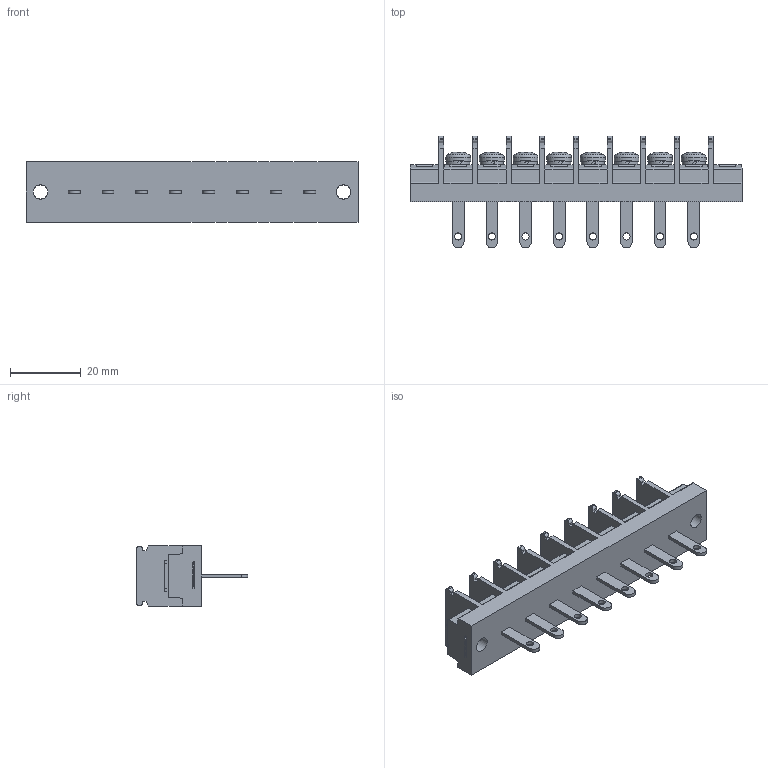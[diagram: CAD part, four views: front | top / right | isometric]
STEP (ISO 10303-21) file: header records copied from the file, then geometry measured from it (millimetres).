
FILE_DESCRIPTION(/* description */ ('Alibre Inc.'),/* implementation_level */ '2;1');
FILE_NAME(/* name */ 'export-996310DA-338D-46CD-AC4F-A4889DA394D0',/* time_stamp */ '2020-11-07T15:39:33+09:00',/* author */ (''),/* organization */ (''),/* preprocessor_version */ 'ST-DEVELOPER v17',/* originating_system */ 'Alibre',/* authorisation */ '');
FILE_SCHEMA (('CONFIG_CONTROL_DESIGN'));
Length unit declared in the file: millimetre
Bounding box: 93.7 x 31.5 x 17 mm (x, y, z)
Volume: 16761.2 mm3; surface area: 11376.9 mm2
Topology: 1 solids, 9 shells, 1128 faces, 3096 edges, 2054 vertices
Faces by surface type: plane 812, cylinder 148, bspline 104, cone 40, torus 16, sphere 8
Full cylindrical faces by diameter (mm): 2 x8, 4 x18, 4.2 x2, 6.5 x8, 7 x8
Entity records: 34143 total; most frequent: CARTESIAN_POINT 7230, ORIENTED_EDGE 5988, DIRECTION 4422, EDGE_CURVE 2994, VECTOR 2098, LINE 2098, VERTEX_POINT 2012, AXIS2_PLACEMENT_3D 1552
